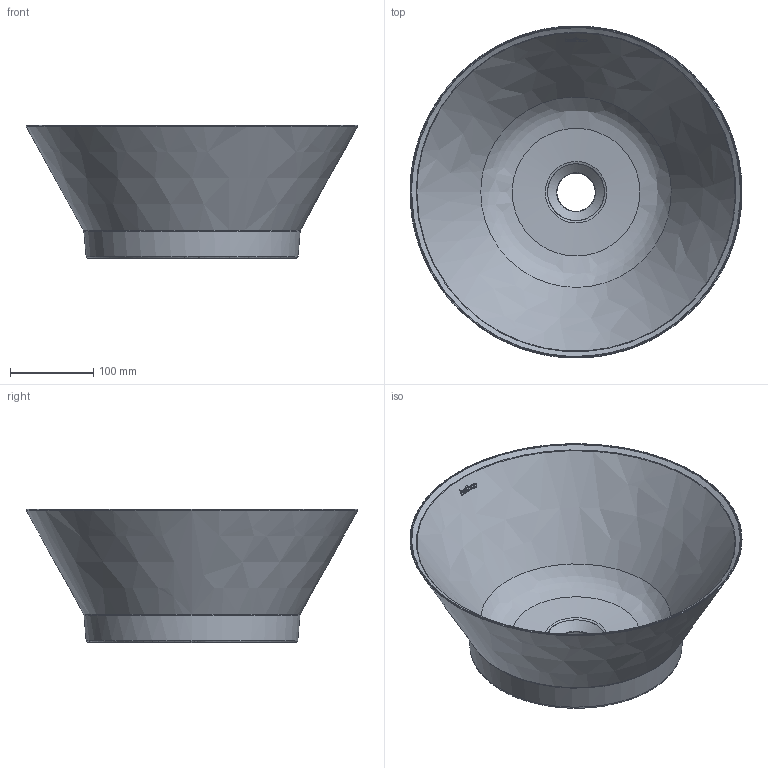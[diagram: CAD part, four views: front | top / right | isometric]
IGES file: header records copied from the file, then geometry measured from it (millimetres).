
Global section: file name: C:\Users\User\Desktop\LAVABOS\4156_ETNA\4156_ETNA.igs; native system: Rhinoceros ( May  7 2021 ); preprocessor: Trout Lake IGES 012 May  7 2021; date: 220617.142647; units: millimetre
Bounding box: 399.26 x 399.19 x 160 mm (x, y, z)
Surface area: 430858.3 mm2 (no closed solid volume)
Topology: 0 solids, 0 shells, 116 faces, 856 edges, 820 vertices
Faces by surface type: bspline 116
